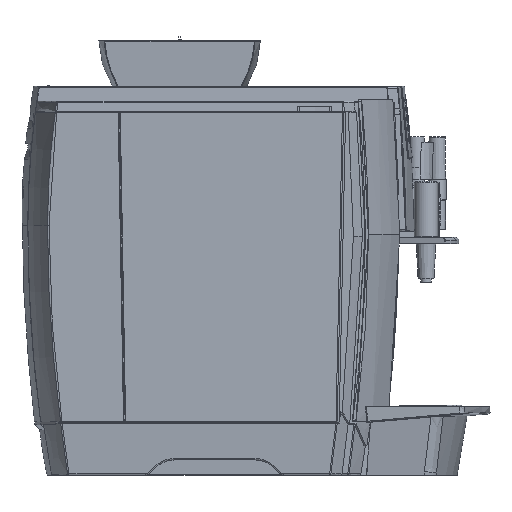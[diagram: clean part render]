
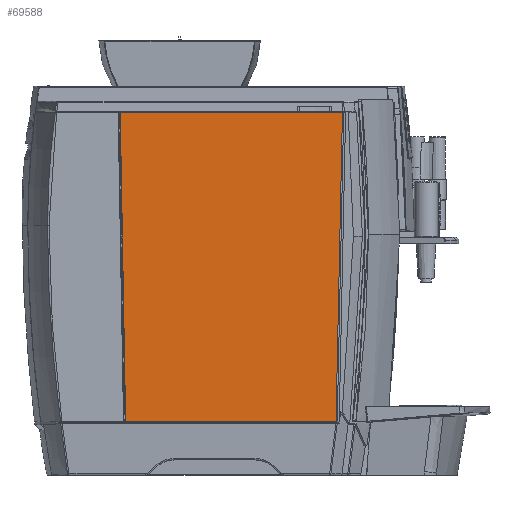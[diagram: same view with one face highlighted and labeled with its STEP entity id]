
A CAD part, left-side view. The second image highlights one B-rep face of the part: STEP entity #69588.
In plain terms, the highlighted planar face has unit normal (-1, 0, 0).
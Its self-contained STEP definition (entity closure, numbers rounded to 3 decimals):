
#847 = CARTESIAN_POINT ( 'NONE',  ( -155., 219.217, 315. ) ) ;
#1403 = CARTESIAN_POINT ( 'NONE',  ( -155., 15.659, 22.516 ) ) ;
#3539 = EDGE_LOOP ( 'NONE', ( #71174, #58425, #26922, #10348, #56658, #75891, #33468 ) ) ;
#3830 = DIRECTION ( 'NONE',  ( 0., -1., 0. ) ) ;
#3850 = VERTEX_POINT ( 'NONE', #16549 ) ;
#4633 = CARTESIAN_POINT ( 'NONE',  ( -155., 15.161, 22.7 ) ) ;
#4806 = DIRECTION ( 'NONE',  ( 0., 0.017, 1. ) ) ;
#5496 = CARTESIAN_POINT ( 'NONE',  ( -155., 213.97, 22.643 ) ) ;
#6180 = VERTEX_POINT ( 'NONE', #64402 ) ;
#6250 =( BOUNDED_CURVE ( )  B_SPLINE_CURVE ( 3, ( #37090, #30718, #43477, #5496 ),
 .UNSPECIFIED., .F., .F. ) 
 B_SPLINE_CURVE_WITH_KNOTS ( ( 4, 4 ),
 ( 0., 1. ),
 .UNSPECIFIED. ) 
 CURVE ( )  GEOMETRIC_REPRESENTATION_ITEM ( )  RATIONAL_B_SPLINE_CURVE ( ( 1., 0.95, 0.95, 1. ) ) 
 REPRESENTATION_ITEM ( '' )  );
#7765 = CARTESIAN_POINT ( 'NONE',  ( -155., 15.277, 22.632 ) ) ;
#7873 = EDGE_CURVE ( 'NONE', #3850, #59759, #8490, .T. ) ;
#8490 =( BOUNDED_CURVE ( )  B_SPLINE_CURVE ( 3, ( #9734, #73659, #41071, #54375 ),
 .UNSPECIFIED., .F., .T. ) 
 B_SPLINE_CURVE_WITH_KNOTS ( ( 4, 4 ),
 ( 0., 1. ),
 .UNSPECIFIED. ) 
 CURVE ( )  GEOMETRIC_REPRESENTATION_ITEM ( )  RATIONAL_B_SPLINE_CURVE ( ( 1., 0.95, 0.95, 1. ) ) 
 REPRESENTATION_ITEM ( '' )  );
#9734 = CARTESIAN_POINT ( 'NONE',  ( -155., 213.97, 22.643 ) ) ;
#10348 = ORIENTED_EDGE ( 'NONE', *, *, #14800, .F. ) ;
#10986 = CARTESIAN_POINT ( 'NONE',  ( -155., 11.099, 217.567 ) ) ;
#12380 = LINE ( 'NONE', #43273, #67904 ) ;
#12751 = EDGE_CURVE ( 'NONE', #33884, #6180, #20324, .T. ) ;
#14634 = LINE ( 'NONE', #18245, #18603 ) ;
#14800 = EDGE_CURVE ( 'NONE', #58347, #6180, #14634, .T. ) ;
#15965 = CARTESIAN_POINT ( 'NONE',  ( -155., 15.924, 22.5 ) ) ;
#16549 = CARTESIAN_POINT ( 'NONE',  ( -155., 213.97, 22.643 ) ) ;
#17823 = DIRECTION ( 'NONE',  ( 0., 1., 0. ) ) ;
#17972 = EDGE_CURVE ( 'NONE', #69009, #78739, #12380, .T. ) ;
#18245 = CARTESIAN_POINT ( 'NONE',  ( -155., 265.363, 315. ) ) ;
#18283 = CARTESIAN_POINT ( 'NONE',  ( -155., 214.119, 22.991 ) ) ;
#18603 = VECTOR ( 'NONE', #3830, 1000. ) ;
#20324 = B_SPLINE_CURVE_WITH_KNOTS ( 'NONE', 3,
 ( #4633, #55062, #10986, #48963 ),
 .UNSPECIFIED., .F., .F.,
 ( 4, 4 ),
 ( 0., 0.293 ),
 .UNSPECIFIED. ) ;
#26922 = ORIENTED_EDGE ( 'NONE', *, *, #12751, .T. ) ;
#27217 = CARTESIAN_POINT ( 'NONE',  ( -155., 214.119, 22.991 ) ) ;
#30718 = CARTESIAN_POINT ( 'NONE',  ( -155., 213.752, 22.5 ) ) ;
#30725 = CARTESIAN_POINT ( 'NONE',  ( -155., 15.161, 22.7 ) ) ;
#33375 = VECTOR ( 'NONE', #4806, 1000. ) ;
#33468 = ORIENTED_EDGE ( 'NONE', *, *, #71550, .F. ) ;
#33884 = VERTEX_POINT ( 'NONE', #30725 ) ;
#37090 = CARTESIAN_POINT ( 'NONE',  ( -155., 213.62, 22.5 ) ) ;
#39484 = AXIS2_PLACEMENT_3D ( 'NONE', #49425, #55801, #17823 ) ;
#41071 = CARTESIAN_POINT ( 'NONE',  ( -155., 214.117, 22.858 ) ) ;
#41912 = DIRECTION ( 'NONE',  ( 0., 1., 0. ) ) ;
#42788 = PLANE ( 'NONE',  #39484 ) ;
#43273 = CARTESIAN_POINT ( 'NONE',  ( -155., 92.508, 22.5 ) ) ;
#43477 = CARTESIAN_POINT ( 'NONE',  ( -155., 213.875, 22.55 ) ) ;
#45749 = CARTESIAN_POINT ( 'NONE',  ( -155., 15.402, 22.582 ) ) ;
#47701 = EDGE_CURVE ( 'NONE', #69009, #33884, #58493, .T. ) ;
#48963 = CARTESIAN_POINT ( 'NONE',  ( -155., 9.068, 315. ) ) ;
#49425 = CARTESIAN_POINT ( 'NONE',  ( -155., 92.508, 116.109 ) ) ;
#52123 = LINE ( 'NONE', #27217, #33375 ) ;
#52135 = CARTESIAN_POINT ( 'NONE',  ( -155., 15.161, 22.7 ) ) ;
#54375 = CARTESIAN_POINT ( 'NONE',  ( -155., 214.119, 22.991 ) ) ;
#55035 = CARTESIAN_POINT ( 'NONE',  ( -155., 213.62, 22.5 ) ) ;
#55062 = CARTESIAN_POINT ( 'NONE',  ( -155., 13.13, 120.134 ) ) ;
#55801 = DIRECTION ( 'NONE',  ( 1., 0., 0. ) ) ;
#56658 = ORIENTED_EDGE ( 'NONE', *, *, #76588, .F. ) ;
#58347 = VERTEX_POINT ( 'NONE', #847 ) ;
#58425 = ORIENTED_EDGE ( 'NONE', *, *, #47701, .T. ) ;
#58493 = B_SPLINE_CURVE_WITH_KNOTS ( 'NONE', 3,
 ( #70867, #64533, #1403, #45749, #7765, #52135 ),
 .UNSPECIFIED., .F., .F.,
 ( 4, 2, 4 ),
 ( 0., 0., 0.001 ),
 .UNSPECIFIED. ) ;
#59759 = VERTEX_POINT ( 'NONE', #18283 ) ;
#62689 = FACE_OUTER_BOUND ( 'NONE', #3539, .T. ) ;
#64402 = CARTESIAN_POINT ( 'NONE',  ( -155., 9.068, 315. ) ) ;
#64533 = CARTESIAN_POINT ( 'NONE',  ( -155., 15.79, 22.5 ) ) ;
#67904 = VECTOR ( 'NONE', #41912, 1000. ) ;
#69009 = VERTEX_POINT ( 'NONE', #15965 ) ;
#69588 = ADVANCED_FACE ( 'NONE', ( #62689 ), #42788, .F. ) ;
#70867 = CARTESIAN_POINT ( 'NONE',  ( -155., 15.924, 22.5 ) ) ;
#71174 = ORIENTED_EDGE ( 'NONE', *, *, #17972, .F. ) ;
#71550 = EDGE_CURVE ( 'NONE', #78739, #3850, #6250, .T. ) ;
#73659 = CARTESIAN_POINT ( 'NONE',  ( -155., 214.065, 22.736 ) ) ;
#75891 = ORIENTED_EDGE ( 'NONE', *, *, #7873, .F. ) ;
#76588 = EDGE_CURVE ( 'NONE', #59759, #58347, #52123, .T. ) ;
#78739 = VERTEX_POINT ( 'NONE', #55035 ) ;
